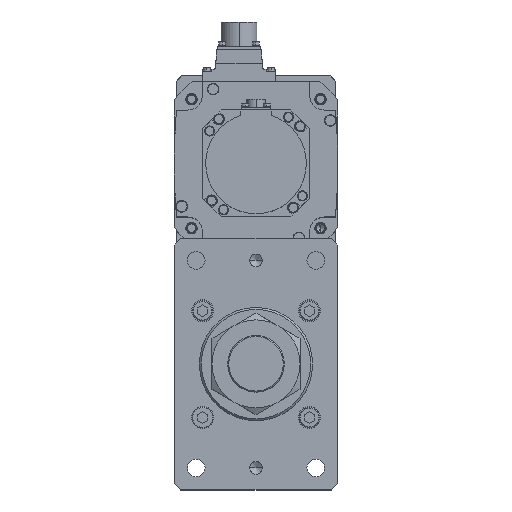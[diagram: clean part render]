
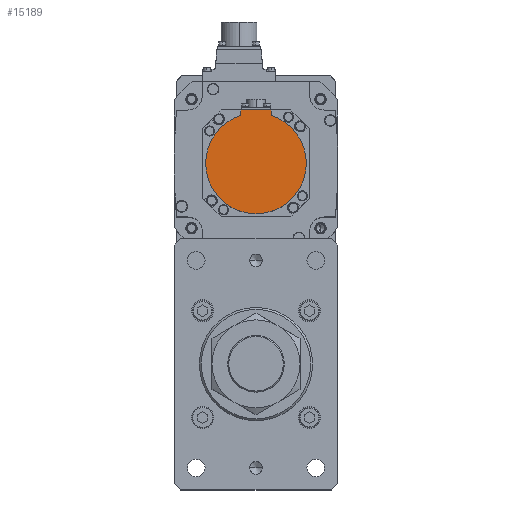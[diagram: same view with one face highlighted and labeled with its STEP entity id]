
A CAD part, top view. The second image highlights one B-rep face of the part: STEP entity #15189.
In plain terms, the highlighted planar face has unit normal (0, 0, 1) as drawn and (0, 0, -1) by its records, which use the part's own axes.
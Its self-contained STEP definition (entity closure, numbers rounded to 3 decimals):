
#1169 = EDGE_CURVE ( 'NONE', #1947, #6636, #26363, .T. ) ;
#1947 = VERTEX_POINT ( 'NONE', #6512 ) ;
#3975 = DIRECTION ( 'NONE',  ( 1., 0., 0. ) ) ;
#4720 = CARTESIAN_POINT ( 'NONE',  ( 12., -1.249, -146.5 ) ) ;
#6512 = CARTESIAN_POINT ( 'NONE',  ( -40., 0., -146.5 ) ) ;
#6628 = ORIENTED_EDGE ( 'NONE', *, *, #1169, .F. ) ;
#6636 = VERTEX_POINT ( 'NONE', #19688 ) ;
#7648 = ORIENTED_EDGE ( 'NONE', *, *, #13220, .T. ) ;
#7664 = VECTOR ( 'NONE', #14443, 1000. ) ;
#8165 = VERTEX_POINT ( 'NONE', #13922 ) ;
#8350 = VECTOR ( 'NONE', #31558, 1000. ) ;
#9116 = AXIS2_PLACEMENT_3D ( 'NONE', #23626, #10400, #29062 ) ;
#9776 = EDGE_LOOP ( 'NONE', ( #22381, #6628, #16206, #12884, #22664, #7648 ) ) ;
#10400 = DIRECTION ( 'NONE',  ( 0., 0., 1. ) ) ;
#10807 = CIRCLE ( 'NONE', #15724, 40. ) ;
#12884 = ORIENTED_EDGE ( 'NONE', *, *, #22119, .F. ) ;
#13173 = DIRECTION ( 'NONE',  ( 1., 0., 0. ) ) ;
#13220 = EDGE_CURVE ( 'NONE', #26937, #8165, #13357, .T. ) ;
#13357 = LINE ( 'NONE', #20189, #17147 ) ;
#13922 = CARTESIAN_POINT ( 'NONE',  ( -12., -42.5, -146.5 ) ) ;
#14443 = DIRECTION ( 'NONE',  ( 0., 1., 0. ) ) ;
#14622 = CARTESIAN_POINT ( 'NONE',  ( 0., -1.249, -146.5 ) ) ;
#14669 = DIRECTION ( 'NONE',  ( -1., 0., 0. ) ) ;
#14695 = CARTESIAN_POINT ( 'NONE',  ( 12., -38.158, -146.5 ) ) ;
#15189 = ADVANCED_FACE ( 'NONE', ( #28734 ), #18027, .F. ) ;
#15528 = DIRECTION ( 'NONE',  ( 0., 0., 1. ) ) ;
#15724 = AXIS2_PLACEMENT_3D ( 'NONE', #31933, #32169, #13173 ) ;
#16206 = ORIENTED_EDGE ( 'NONE', *, *, #27232, .F. ) ;
#17138 = CARTESIAN_POINT ( 'NONE',  ( -12., -40.329, -146.5 ) ) ;
#17147 = VECTOR ( 'NONE', #14669, 1000. ) ;
#18027 = PLANE ( 'NONE',  #32626 ) ;
#18692 = EDGE_CURVE ( 'NONE', #8165, #6636, #31073, .T. ) ;
#19688 = CARTESIAN_POINT ( 'NONE',  ( -12., -38.158, -146.5 ) ) ;
#20189 = CARTESIAN_POINT ( 'NONE',  ( 0., -42.5, -146.5 ) ) ;
#20729 = EDGE_CURVE ( 'NONE', #26937, #31294, #31331, .T. ) ;
#22119 = EDGE_CURVE ( 'NONE', #31294, #31700, #10807, .T. ) ;
#22381 = ORIENTED_EDGE ( 'NONE', *, *, #18692, .T. ) ;
#22664 = ORIENTED_EDGE ( 'NONE', *, *, #20729, .F. ) ;
#22687 = AXIS2_PLACEMENT_3D ( 'NONE', #25769, #30886, #31212 ) ;
#23626 = CARTESIAN_POINT ( 'NONE',  ( 0., 0., -146.5 ) ) ;
#24502 = CARTESIAN_POINT ( 'NONE',  ( 40., 0., -146.5 ) ) ;
#25769 = CARTESIAN_POINT ( 'NONE',  ( 0., 0., -146.5 ) ) ;
#26363 = CIRCLE ( 'NONE', #22687, 40. ) ;
#26937 = VERTEX_POINT ( 'NONE', #34658 ) ;
#27232 = EDGE_CURVE ( 'NONE', #31700, #1947, #34395, .T. ) ;
#28734 = FACE_OUTER_BOUND ( 'NONE', #9776, .T. ) ;
#29062 = DIRECTION ( 'NONE',  ( 1., 0., 0. ) ) ;
#30886 = DIRECTION ( 'NONE',  ( 0., 0., 1. ) ) ;
#31073 = LINE ( 'NONE', #17138, #7664 ) ;
#31212 = DIRECTION ( 'NONE',  ( 1., 0., 0. ) ) ;
#31294 = VERTEX_POINT ( 'NONE', #14695 ) ;
#31331 = LINE ( 'NONE', #4720, #8350 ) ;
#31558 = DIRECTION ( 'NONE',  ( 0., 1., 0. ) ) ;
#31700 = VERTEX_POINT ( 'NONE', #24502 ) ;
#31933 = CARTESIAN_POINT ( 'NONE',  ( 0., 0., -146.5 ) ) ;
#32169 = DIRECTION ( 'NONE',  ( 0., 0., 1. ) ) ;
#32626 = AXIS2_PLACEMENT_3D ( 'NONE', #14622, #15528, #3975 ) ;
#34395 = CIRCLE ( 'NONE', #9116, 40. ) ;
#34658 = CARTESIAN_POINT ( 'NONE',  ( 12., -42.5, -146.5 ) ) ;
